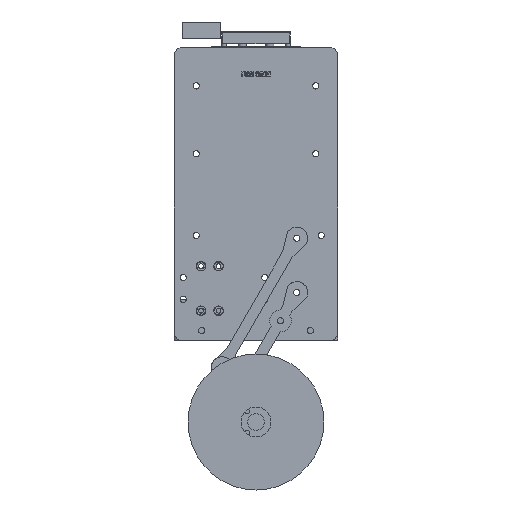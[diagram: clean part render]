
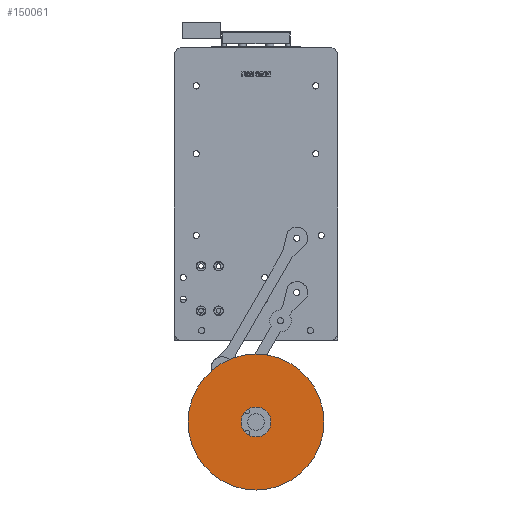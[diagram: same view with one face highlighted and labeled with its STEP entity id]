
A CAD part, front view. The second image highlights one B-rep face of the part: STEP entity #150061.
In plain terms, the highlighted planar face has unit normal (0, -1, 0).
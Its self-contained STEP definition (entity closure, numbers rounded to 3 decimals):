
#149969 = EDGE_CURVE('',#149970,#149970,#149972,.T.);
#149970 = VERTEX_POINT('',#149971);
#149971 = CARTESIAN_POINT('',(0.,-194.5,-45.263
    ));
#149972 = SURFACE_CURVE('',#149973,(#149978,#149990),.PCURVE_S1.);
#149973 = CIRCLE('',#149974,50.);
#149974 = AXIS2_PLACEMENT_3D('',#149975,#149976,#149977);
#149975 = CARTESIAN_POINT('',(0.,-194.5,-95.263)
  );
#149976 = DIRECTION('',(0.,1.,0.));
#149977 = DIRECTION('',(-0.,-0.,1.));
#149978 = PCURVE('',#149979,#149984);
#149979 = CYLINDRICAL_SURFACE('',#149980,50.);
#149980 = AXIS2_PLACEMENT_3D('',#149981,#149982,#149983);
#149981 = CARTESIAN_POINT('',(0.,-170.5,-95.263)
  );
#149982 = DIRECTION('',(-0.,-1.,-0.));
#149983 = DIRECTION('',(-0.,-0.,1.));
#149984 = DEFINITIONAL_REPRESENTATION('',(#149985),#149989);
#149985 = LINE('',#149986,#149987);
#149986 = CARTESIAN_POINT('',(-0.,24.));
#149987 = VECTOR('',#149988,1.);
#149988 = DIRECTION('',(-1.,0.));
#149989 = ( GEOMETRIC_REPRESENTATION_CONTEXT(2) 
PARAMETRIC_REPRESENTATION_CONTEXT() REPRESENTATION_CONTEXT('2D SPACE',''
  ) );
#149990 = PCURVE('',#149991,#149996);
#149991 = PLANE('',#149992);
#149992 = AXIS2_PLACEMENT_3D('',#149993,#149994,#149995);
#149993 = CARTESIAN_POINT('',(0.,-194.5,-95.263)
  );
#149994 = DIRECTION('',(-0.,-1.,-0.));
#149995 = DIRECTION('',(0.,0.,-1.));
#149996 = DEFINITIONAL_REPRESENTATION('',(#149997),#150005);
#149997 = ( BOUNDED_CURVE() B_SPLINE_CURVE(2,(#149998,#149999,#150000,
    #150001,#150002,#150003,#150004),.UNSPECIFIED.,.T.,.F.) 
B_SPLINE_CURVE_WITH_KNOTS((1,2,2,2,2,1),(-2.094,0.,
    2.094,4.189,6.283,8.378),
.UNSPECIFIED.) CURVE() GEOMETRIC_REPRESENTATION_ITEM() 
RATIONAL_B_SPLINE_CURVE((1.,0.5,1.,0.5,1.,0.5,1.)) REPRESENTATION_ITEM(
  '') );
#149998 = CARTESIAN_POINT('',(-50.,0.));
#149999 = CARTESIAN_POINT('',(-50.,86.603));
#150000 = CARTESIAN_POINT('',(25.,43.301));
#150001 = CARTESIAN_POINT('',(100.,0.));
#150002 = CARTESIAN_POINT('',(25.,-43.301));
#150003 = CARTESIAN_POINT('',(-50.,-86.603));
#150004 = CARTESIAN_POINT('',(-50.,0.));
#150005 = ( GEOMETRIC_REPRESENTATION_CONTEXT(2) 
PARAMETRIC_REPRESENTATION_CONTEXT() REPRESENTATION_CONTEXT('2D SPACE',''
  ) );
#150061 = ADVANCED_FACE('',(#150062,#150065),#149991,.T.);
#150062 = FACE_BOUND('',#150063,.F.);
#150063 = EDGE_LOOP('',(#150064));
#150064 = ORIENTED_EDGE('',*,*,#149969,.T.);
#150065 = FACE_BOUND('',#150066,.F.);
#150066 = EDGE_LOOP('',(#150067));
#150067 = ORIENTED_EDGE('',*,*,#150068,.F.);
#150068 = EDGE_CURVE('',#150069,#150069,#150071,.T.);
#150069 = VERTEX_POINT('',#150070);
#150070 = CARTESIAN_POINT('',(0.,-194.5,-84.263)
  );
#150071 = SURFACE_CURVE('',#150072,(#150077,#150088),.PCURVE_S1.);
#150072 = CIRCLE('',#150073,11.);
#150073 = AXIS2_PLACEMENT_3D('',#150074,#150075,#150076);
#150074 = CARTESIAN_POINT('',(0.,-194.5,-95.263)
  );
#150075 = DIRECTION('',(0.,1.,0.));
#150076 = DIRECTION('',(-0.,-0.,1.));
#150077 = PCURVE('',#149991,#150078);
#150078 = DEFINITIONAL_REPRESENTATION('',(#150079),#150087);
#150079 = ( BOUNDED_CURVE() B_SPLINE_CURVE(2,(#150080,#150081,#150082,
    #150083,#150084,#150085,#150086),.UNSPECIFIED.,.T.,.F.) 
B_SPLINE_CURVE_WITH_KNOTS((1,2,2,2,2,1),(-2.094,0.,
    2.094,4.189,6.283,8.378),
.UNSPECIFIED.) CURVE() GEOMETRIC_REPRESENTATION_ITEM() 
RATIONAL_B_SPLINE_CURVE((1.,0.5,1.,0.5,1.,0.5,1.)) REPRESENTATION_ITEM(
  '') );
#150080 = CARTESIAN_POINT('',(-11.,0.));
#150081 = CARTESIAN_POINT('',(-11.,19.053));
#150082 = CARTESIAN_POINT('',(5.5,9.526));
#150083 = CARTESIAN_POINT('',(22.,0.));
#150084 = CARTESIAN_POINT('',(5.5,-9.526));
#150085 = CARTESIAN_POINT('',(-11.,-19.053));
#150086 = CARTESIAN_POINT('',(-11.,0.));
#150087 = ( GEOMETRIC_REPRESENTATION_CONTEXT(2) 
PARAMETRIC_REPRESENTATION_CONTEXT() REPRESENTATION_CONTEXT('2D SPACE',''
  ) );
#150088 = PCURVE('',#150089,#150094);
#150089 = CYLINDRICAL_SURFACE('',#150090,11.);
#150090 = AXIS2_PLACEMENT_3D('',#150091,#150092,#150093);
#150091 = CARTESIAN_POINT('',(0.,-170.5,-95.263)
  );
#150092 = DIRECTION('',(-0.,-1.,-0.));
#150093 = DIRECTION('',(-0.,-0.,1.));
#150094 = DEFINITIONAL_REPRESENTATION('',(#150095),#150099);
#150095 = LINE('',#150096,#150097);
#150096 = CARTESIAN_POINT('',(-0.,24.));
#150097 = VECTOR('',#150098,1.);
#150098 = DIRECTION('',(-1.,0.));
#150099 = ( GEOMETRIC_REPRESENTATION_CONTEXT(2) 
PARAMETRIC_REPRESENTATION_CONTEXT() REPRESENTATION_CONTEXT('2D SPACE',''
  ) );
